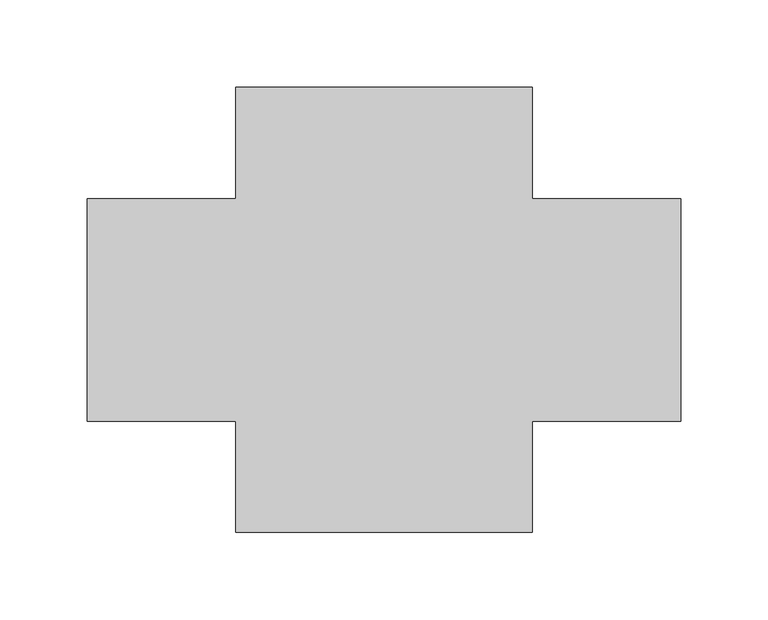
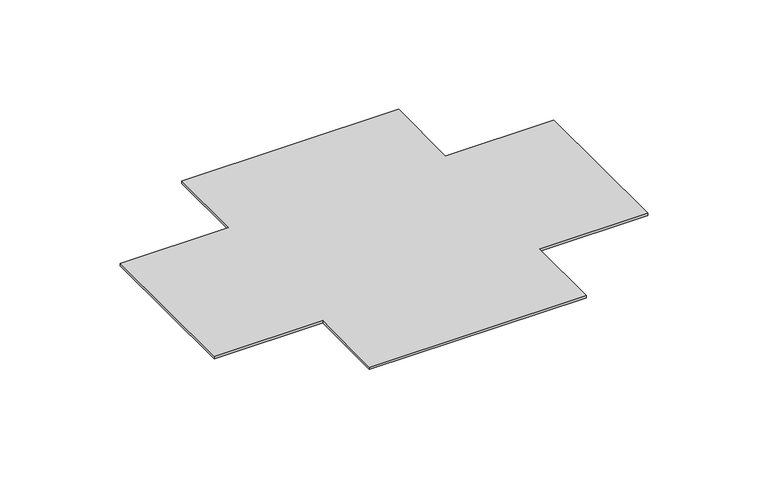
"""IFC4 building model written with IfcOpenShell, lengths in millimetres: cable carrier fitting geometry, КНС_ПластинаМонтажная_DKC : для коробок 380х300мм."""

from ifc_helpers import new_model, si_unit, origin, origin_with_axes, place, context, project, spatial, polyline, outline, extrude, source, transform, mapped, element, save


def cable_carrier_fitting_d68eb885(model_context):
    return source(origin(), model_context, "Body", "SweptSolid", [
        extrude(outline(polyline([(85.0, 127.5), (85.0, 63.75), (170.0, 63.75), (170.0, -63.75), (85.0, -63.75), (85.0, -127.5), (-85.0, -127.5), (-85.0, -63.75), (-170.0, -63.75), (-170.0, 63.75), (-85.0, 63.75), (-85.0, 127.5), (85.0, 127.5)])), origin_with_axes(), (0.0, 0.0, 1.0), 2.0),
    ])


if __name__ == "__main__":
    model = new_model("IFC4")
    model_context = context("Model", 3, world=origin())
    ifc_project = project(units=[si_unit("LENGTHUNIT", "METRE", prefix="MILLI")], contexts=[model_context])
    site = spatial("IfcSite", under=ifc_project)
    building = spatial("IfcBuilding", under=site)
    placement = place(None, origin())
    cable_carrier_fitting_shape = cable_carrier_fitting_d68eb885(model_context)
    element("IfcCableCarrierFitting", 1, ObjectType="КНС_ПластинаМонтажная_DKC : для коробок 380х300мм", at=placement, inside=building, context=model_context, shape_type="MappedRepresentation", body=[
        mapped(cable_carrier_fitting_shape, transform((0.0, 0.0, 0.0), x_axis=(1.0, 0.0, 0.0), y_axis=(0.0, 1.0, 0.0), z_axis=(0.0, 0.0, 1.0))),
    ])
    save(model, "model.ifc")
